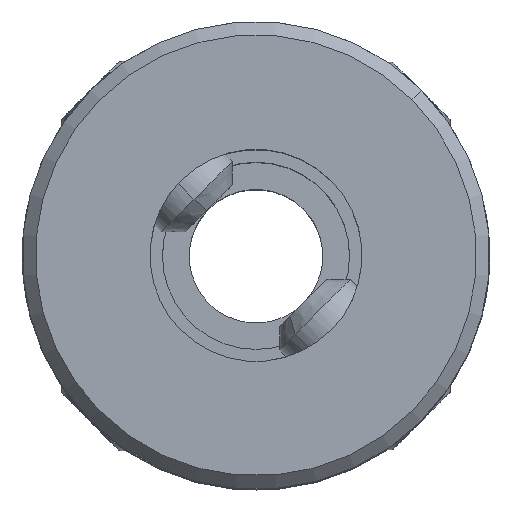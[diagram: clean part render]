
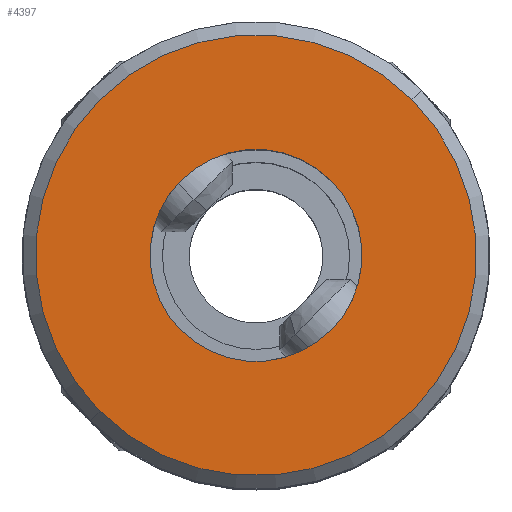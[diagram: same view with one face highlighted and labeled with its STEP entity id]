
A CAD part, top view. The second image highlights one B-rep face of the part: STEP entity #4397.
In plain terms, the highlighted planar face has unit normal (0, 0, 1).
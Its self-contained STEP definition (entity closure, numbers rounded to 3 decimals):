
#149 = DIRECTION ( 'NONE',  ( -0.707, -0.707, 0. ) ) ;
#173 = CARTESIAN_POINT ( 'NONE',  ( 0., 0., 11. ) ) ;
#455 = EDGE_CURVE ( 'NONE', #10551, #3891, #3307, .T. ) ;
#469 = CARTESIAN_POINT ( 'NONE',  ( 0., 0., 11. ) ) ;
#656 = CIRCLE ( 'NONE', #6256, 3.175 ) ;
#965 = CARTESIAN_POINT ( 'NONE',  ( 0., 0., 11. ) ) ;
#1088 = DIRECTION ( 'NONE',  ( -0.707, -0.707, 0. ) ) ;
#1218 = ORIENTED_EDGE ( 'NONE', *, *, #455, .T. ) ;
#1387 = DIRECTION ( 'NONE',  ( -0.707, -0.707, 0. ) ) ;
#1646 = CARTESIAN_POINT ( 'NONE',  ( -4.667, -4.667, 11. ) ) ;
#1759 = EDGE_CURVE ( 'NONE', #3891, #10551, #656, .T. ) ;
#1933 = DIRECTION ( 'NONE',  ( 0., 0., -1. ) ) ;
#2854 = CARTESIAN_POINT ( 'NONE',  ( 0., 0., 11. ) ) ;
#3184 = EDGE_LOOP ( 'NONE', ( #1218, #8870 ) ) ;
#3225 = ORIENTED_EDGE ( 'NONE', *, *, #10441, .T. ) ;
#3307 = CIRCLE ( 'NONE', #9425, 3.175 ) ;
#3891 = VERTEX_POINT ( 'NONE', #5301 ) ;
#4335 = DIRECTION ( 'NONE',  ( -0.707, -0.707, 0. ) ) ;
#4363 = DIRECTION ( 'NONE',  ( 0., 0., 1. ) ) ;
#4382 = PLANE ( 'NONE',  #9143 ) ;
#4397 = ADVANCED_FACE ( 'NONE', ( #4517, #10773 ), #4382, .F. ) ;
#4446 = AXIS2_PLACEMENT_3D ( 'NONE', #10238, #4363, #149 ) ;
#4517 = FACE_OUTER_BOUND ( 'NONE', #5737, .T. ) ;
#4915 = AXIS2_PLACEMENT_3D ( 'NONE', #469, #8028, #1387 ) ;
#5127 = DIRECTION ( 'NONE',  ( 0., 0., -1. ) ) ;
#5186 = DIRECTION ( 'NONE',  ( 0., 0., -1. ) ) ;
#5301 = CARTESIAN_POINT ( 'NONE',  ( 2.245, 2.245, 11. ) ) ;
#5343 = EDGE_CURVE ( 'NONE', #10711, #6497, #7476, .T. ) ;
#5695 = CARTESIAN_POINT ( 'NONE',  ( -2.245, -2.245, 11. ) ) ;
#5737 = EDGE_LOOP ( 'NONE', ( #8033, #3225 ) ) ;
#6023 = DIRECTION ( 'NONE',  ( -0.707, -0.707, 0. ) ) ;
#6256 = AXIS2_PLACEMENT_3D ( 'NONE', #173, #5127, #6023 ) ;
#6497 = VERTEX_POINT ( 'NONE', #8377 ) ;
#7476 = CIRCLE ( 'NONE', #4446, 6.6 ) ;
#8028 = DIRECTION ( 'NONE',  ( 0., 0., 1. ) ) ;
#8033 = ORIENTED_EDGE ( 'NONE', *, *, #5343, .T. ) ;
#8377 = CARTESIAN_POINT ( 'NONE',  ( 4.667, 4.667, 11. ) ) ;
#8870 = ORIENTED_EDGE ( 'NONE', *, *, #1759, .T. ) ;
#9143 = AXIS2_PLACEMENT_3D ( 'NONE', #2854, #1933, #1088 ) ;
#9149 = CIRCLE ( 'NONE', #4915, 6.6 ) ;
#9425 = AXIS2_PLACEMENT_3D ( 'NONE', #965, #5186, #4335 ) ;
#10238 = CARTESIAN_POINT ( 'NONE',  ( 0., 0., 11. ) ) ;
#10441 = EDGE_CURVE ( 'NONE', #6497, #10711, #9149, .T. ) ;
#10551 = VERTEX_POINT ( 'NONE', #5695 ) ;
#10711 = VERTEX_POINT ( 'NONE', #1646 ) ;
#10773 = FACE_BOUND ( 'NONE', #3184, .T. ) ;
